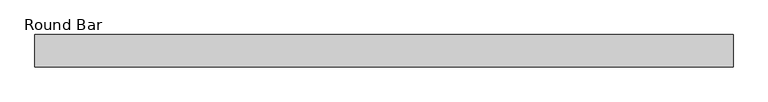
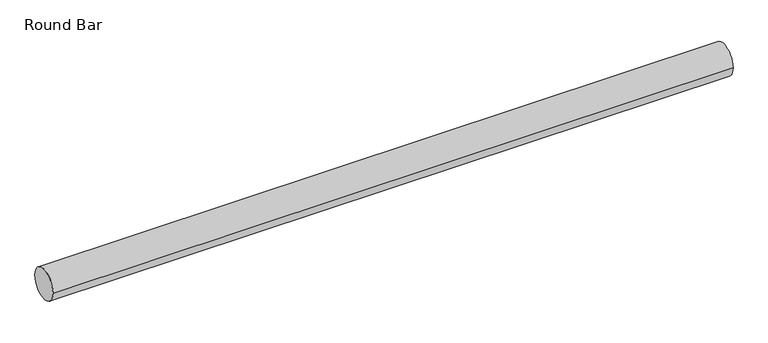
"""IFC4 building model written with IfcOpenShell, lengths in millimetres: beam geometry, Round Bar : Ispuna resetke."""

from ifc_helpers import new_model, si_unit, point, frame, origin, origin_2d, place, context, project, spatial, circle_curve, trimmed, segment, composite_curve, outline, extrude, source, transform, mapped, element, save


def round_bar_b8de9798(model_context):
    return source(origin(), model_context, "Body", "SweptSolid", [
        extrude(outline(composite_curve([segment(trimmed(circle_curve(origin_2d(), 100.0), [point((-100.0, 0.0))], [point((100.0, 0.0))], False, "CARTESIAN"), True, "CONTINUOUS"), segment(trimmed(circle_curve(origin_2d(), 100.0), [point((100.0, 0.0))], [point((-100.0, 0.0))], False, "CARTESIAN"), True, "CONTINUOUS")], self_intersect=False)), frame((-1217.5, 0.0, 0.0), z_axis=(1.0, 0.0, 0.0), x_axis=(0.0, 1.0, 0.0)), (0.0, 0.0, 1.0), 4326.0),
    ])


if __name__ == "__main__":
    model = new_model("IFC4")
    model_context = context("Model", 3, world=origin())
    ifc_project = project(units=[si_unit("LENGTHUNIT", "METRE", prefix="MILLI")], contexts=[model_context])
    site = spatial("IfcSite", under=ifc_project)
    building = spatial("IfcBuilding", under=site)
    placement = place(None, origin())
    round_bar_shape = round_bar_b8de9798(model_context)
    element("IfcBeam", 1, ObjectType="Round Bar : Ispuna resetke", at=placement, inside=building, context=model_context, shape_type="MappedRepresentation", body=[
        mapped(round_bar_shape, transform((0.0, 0.0, 0.0), x_axis=(1.0, 0.0, 0.0), y_axis=(0.0, 1.0, 0.0), z_axis=(0.0, 0.0, 1.0))),
    ])
    save(model, "model.ifc")
